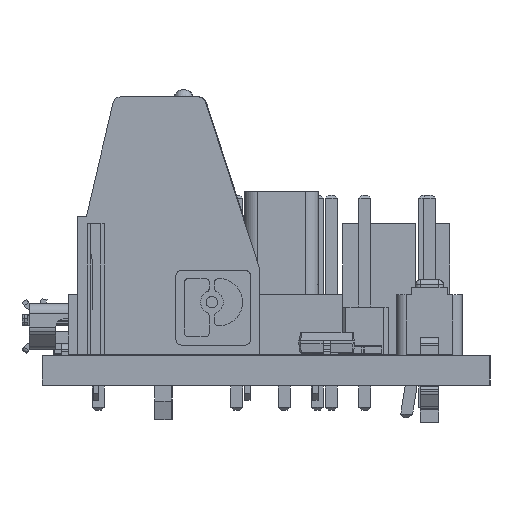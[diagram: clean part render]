
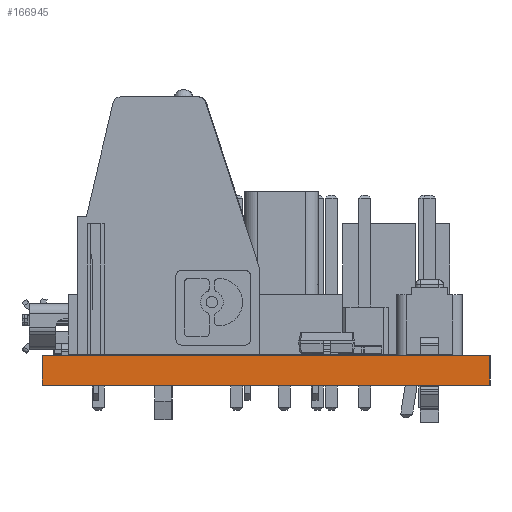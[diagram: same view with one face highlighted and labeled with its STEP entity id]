
A CAD part, left-side view. The second image highlights one B-rep face of the part: STEP entity #166945.
In plain terms, the highlighted planar face has unit normal (-1, 0, 0).
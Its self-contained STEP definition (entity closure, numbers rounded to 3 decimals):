
#166829 = EDGE_CURVE('',#166830,#166832,#166834,.T.);
#166830 = VERTEX_POINT('',#166831);
#166831 = CARTESIAN_POINT('',(-81.742,-21.341,0.));
#166832 = VERTEX_POINT('',#166833);
#166833 = CARTESIAN_POINT('',(-81.742,-21.341,1.6));
#166834 = SURFACE_CURVE('',#166835,(#166839,#166851),.PCURVE_S1.);
#166835 = LINE('',#166836,#166837);
#166836 = CARTESIAN_POINT('',(-81.742,-21.341,0.));
#166837 = VECTOR('',#166838,1.);
#166838 = DIRECTION('',(0.,0.,1.));
#166839 = PCURVE('',#166840,#166845);
#166840 = PLANE('',#166841);
#166841 = AXIS2_PLACEMENT_3D('',#166842,#166843,#166844);
#166842 = CARTESIAN_POINT('',(-81.742,-21.341,0.));
#166843 = DIRECTION('',(0.,1.,0.));
#166844 = DIRECTION('',(1.,0.,0.));
#166845 = DEFINITIONAL_REPRESENTATION('',(#166846),#166850);
#166846 = LINE('',#166847,#166848);
#166847 = CARTESIAN_POINT('',(0.,0.));
#166848 = VECTOR('',#166849,1.);
#166849 = DIRECTION('',(0.,-1.));
#166850 = ( GEOMETRIC_REPRESENTATION_CONTEXT(2) 
PARAMETRIC_REPRESENTATION_CONTEXT() REPRESENTATION_CONTEXT('2D SPACE',''
  ) );
#166851 = PCURVE('',#166852,#166857);
#166852 = PLANE('',#166853);
#166853 = AXIS2_PLACEMENT_3D('',#166854,#166855,#166856);
#166854 = CARTESIAN_POINT('',(-81.742,2.659,0.));
#166855 = DIRECTION('',(1.,0.,0.));
#166856 = DIRECTION('',(0.,-1.,0.));
#166857 = DEFINITIONAL_REPRESENTATION('',(#166858),#166862);
#166858 = LINE('',#166859,#166860);
#166859 = CARTESIAN_POINT('',(24.,0.));
#166860 = VECTOR('',#166861,1.);
#166861 = DIRECTION('',(0.,-1.));
#166862 = ( GEOMETRIC_REPRESENTATION_CONTEXT(2) 
PARAMETRIC_REPRESENTATION_CONTEXT() REPRESENTATION_CONTEXT('2D SPACE',''
  ) );
#166880 = PLANE('',#166881);
#166881 = AXIS2_PLACEMENT_3D('',#166882,#166883,#166884);
#166882 = CARTESIAN_POINT('',(-31.742,-9.341,1.6));
#166883 = DIRECTION('',(0.,0.,1.));
#166884 = DIRECTION('',(1.,0.,0.));
#166934 = PLANE('',#166935);
#166935 = AXIS2_PLACEMENT_3D('',#166936,#166937,#166938);
#166936 = CARTESIAN_POINT('',(-31.742,-9.341,0.));
#166937 = DIRECTION('',(0.,0.,1.));
#166938 = DIRECTION('',(1.,0.,0.));
#166945 = ADVANCED_FACE('',(#166946),#166852,.F.);
#166946 = FACE_BOUND('',#166947,.F.);
#166947 = EDGE_LOOP('',(#166948,#166978,#166999,#167000));
#166948 = ORIENTED_EDGE('',*,*,#166949,.T.);
#166949 = EDGE_CURVE('',#166950,#166952,#166954,.T.);
#166950 = VERTEX_POINT('',#166951);
#166951 = CARTESIAN_POINT('',(-81.742,2.659,0.));
#166952 = VERTEX_POINT('',#166953);
#166953 = CARTESIAN_POINT('',(-81.742,2.659,1.6));
#166954 = SURFACE_CURVE('',#166955,(#166959,#166966),.PCURVE_S1.);
#166955 = LINE('',#166956,#166957);
#166956 = CARTESIAN_POINT('',(-81.742,2.659,0.));
#166957 = VECTOR('',#166958,1.);
#166958 = DIRECTION('',(0.,0.,1.));
#166959 = PCURVE('',#166852,#166960);
#166960 = DEFINITIONAL_REPRESENTATION('',(#166961),#166965);
#166961 = LINE('',#166962,#166963);
#166962 = CARTESIAN_POINT('',(0.,0.));
#166963 = VECTOR('',#166964,1.);
#166964 = DIRECTION('',(0.,-1.));
#166965 = ( GEOMETRIC_REPRESENTATION_CONTEXT(2) 
PARAMETRIC_REPRESENTATION_CONTEXT() REPRESENTATION_CONTEXT('2D SPACE',''
  ) );
#166966 = PCURVE('',#166967,#166972);
#166967 = PLANE('',#166968);
#166968 = AXIS2_PLACEMENT_3D('',#166969,#166970,#166971);
#166969 = CARTESIAN_POINT('',(18.258,2.659,0.));
#166970 = DIRECTION('',(0.,-1.,0.));
#166971 = DIRECTION('',(-1.,0.,0.));
#166972 = DEFINITIONAL_REPRESENTATION('',(#166973),#166977);
#166973 = LINE('',#166974,#166975);
#166974 = CARTESIAN_POINT('',(100.,0.));
#166975 = VECTOR('',#166976,1.);
#166976 = DIRECTION('',(0.,-1.));
#166977 = ( GEOMETRIC_REPRESENTATION_CONTEXT(2) 
PARAMETRIC_REPRESENTATION_CONTEXT() REPRESENTATION_CONTEXT('2D SPACE',''
  ) );
#166978 = ORIENTED_EDGE('',*,*,#166979,.T.);
#166979 = EDGE_CURVE('',#166952,#166832,#166980,.T.);
#166980 = SURFACE_CURVE('',#166981,(#166985,#166992),.PCURVE_S1.);
#166981 = LINE('',#166982,#166983);
#166982 = CARTESIAN_POINT('',(-81.742,2.659,1.6));
#166983 = VECTOR('',#166984,1.);
#166984 = DIRECTION('',(0.,-1.,0.));
#166985 = PCURVE('',#166852,#166986);
#166986 = DEFINITIONAL_REPRESENTATION('',(#166987),#166991);
#166987 = LINE('',#166988,#166989);
#166988 = CARTESIAN_POINT('',(0.,-1.6));
#166989 = VECTOR('',#166990,1.);
#166990 = DIRECTION('',(1.,0.));
#166991 = ( GEOMETRIC_REPRESENTATION_CONTEXT(2) 
PARAMETRIC_REPRESENTATION_CONTEXT() REPRESENTATION_CONTEXT('2D SPACE',''
  ) );
#166992 = PCURVE('',#166880,#166993);
#166993 = DEFINITIONAL_REPRESENTATION('',(#166994),#166998);
#166994 = LINE('',#166995,#166996);
#166995 = CARTESIAN_POINT('',(-50.,12.));
#166996 = VECTOR('',#166997,1.);
#166997 = DIRECTION('',(0.,-1.));
#166998 = ( GEOMETRIC_REPRESENTATION_CONTEXT(2) 
PARAMETRIC_REPRESENTATION_CONTEXT() REPRESENTATION_CONTEXT('2D SPACE',''
  ) );
#166999 = ORIENTED_EDGE('',*,*,#166829,.F.);
#167000 = ORIENTED_EDGE('',*,*,#167001,.F.);
#167001 = EDGE_CURVE('',#166950,#166830,#167002,.T.);
#167002 = SURFACE_CURVE('',#167003,(#167007,#167014),.PCURVE_S1.);
#167003 = LINE('',#167004,#167005);
#167004 = CARTESIAN_POINT('',(-81.742,2.659,0.));
#167005 = VECTOR('',#167006,1.);
#167006 = DIRECTION('',(0.,-1.,0.));
#167007 = PCURVE('',#166852,#167008);
#167008 = DEFINITIONAL_REPRESENTATION('',(#167009),#167013);
#167009 = LINE('',#167010,#167011);
#167010 = CARTESIAN_POINT('',(0.,0.));
#167011 = VECTOR('',#167012,1.);
#167012 = DIRECTION('',(1.,0.));
#167013 = ( GEOMETRIC_REPRESENTATION_CONTEXT(2) 
PARAMETRIC_REPRESENTATION_CONTEXT() REPRESENTATION_CONTEXT('2D SPACE',''
  ) );
#167014 = PCURVE('',#166934,#167015);
#167015 = DEFINITIONAL_REPRESENTATION('',(#167016),#167020);
#167016 = LINE('',#167017,#167018);
#167017 = CARTESIAN_POINT('',(-50.,12.));
#167018 = VECTOR('',#167019,1.);
#167019 = DIRECTION('',(0.,-1.));
#167020 = ( GEOMETRIC_REPRESENTATION_CONTEXT(2) 
PARAMETRIC_REPRESENTATION_CONTEXT() REPRESENTATION_CONTEXT('2D SPACE',''
  ) );
